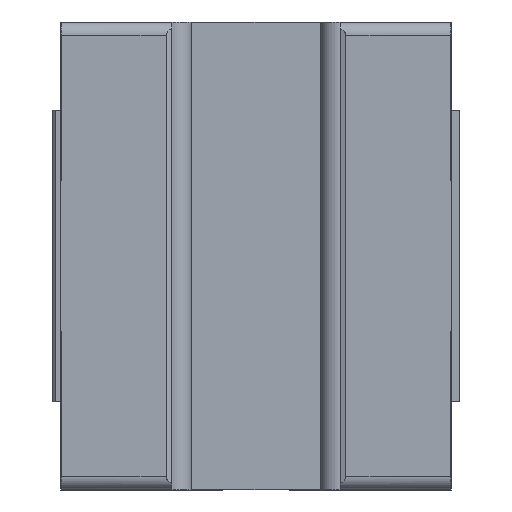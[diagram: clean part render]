
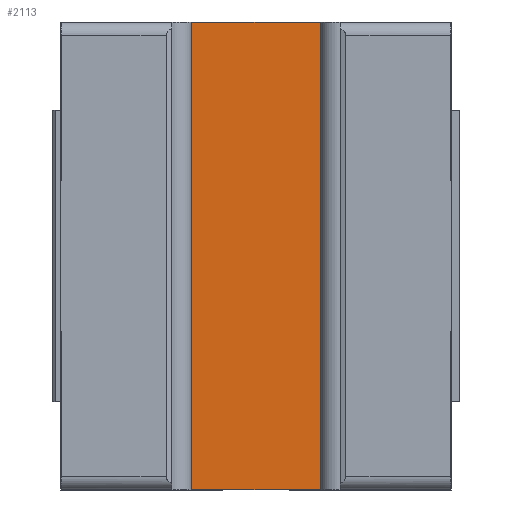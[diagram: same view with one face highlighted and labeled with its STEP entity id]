
A CAD part, front view. The second image highlights one B-rep face of the part: STEP entity #2113.
In plain terms, the highlighted planar face has unit normal (0, -1, 0).
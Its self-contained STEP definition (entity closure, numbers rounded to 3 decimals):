
#919 = VERTEX_POINT ( 'NONE', #7210 ) ;
#1076 = EDGE_CURVE ( 'NONE', #919, #1134, #7653, .T. ) ;
#1134 = VERTEX_POINT ( 'NONE', #8041 ) ;
#2102 = ORIENTED_EDGE ( 'NONE', *, *, #1076, .F. ) ;
#2107 = EDGE_CURVE ( 'NONE', #919, #2303, #4940, .T. ) ;
#2112 = ORIENTED_EDGE ( 'NONE', *, *, #2302, .T. ) ;
#2113 = ADVANCED_FACE ( 'NONE', ( #4832 ), #4855, .F. ) ;
#2117 = EDGE_CURVE ( 'NONE', #1134, #2300, #4806, .T. ) ;
#2120 = EDGE_LOOP ( 'NONE', ( #2204, #2112, #2203, #2102 ) ) ;
#2203 = ORIENTED_EDGE ( 'NONE', *, *, #2117, .F. ) ;
#2204 = ORIENTED_EDGE ( 'NONE', *, *, #2107, .T. ) ;
#2300 = VERTEX_POINT ( 'NONE', #12037 ) ;
#2302 = EDGE_CURVE ( 'NONE', #2303, #2300, #11942, .T. ) ;
#2303 = VERTEX_POINT ( 'NONE', #11999 ) ;
#4801 = DIRECTION ( 'NONE',  ( 0., 0., 1. ) ) ;
#4802 = VECTOR ( 'NONE', #4801, 1000. ) ;
#4803 = CARTESIAN_POINT ( 'NONE',  ( -7.254, 7.798, -9.1 ) ) ;
#4806 = LINE ( 'NONE', #4803, #4802 ) ;
#4824 = DIRECTION ( 'NONE',  ( -1., 0., 0. ) ) ;
#4825 = DIRECTION ( 'NONE',  ( 0., 1., 0. ) ) ;
#4826 = CARTESIAN_POINT ( 'NONE',  ( 7.257, 7.798, -9.1 ) ) ;
#4827 = AXIS2_PLACEMENT_3D ( 'NONE', #4826, #4825, #4824 ) ;
#4832 = FACE_OUTER_BOUND ( 'NONE', #2120, .T. ) ;
#4855 = PLANE ( 'NONE',  #4827 ) ;
#4937 = DIRECTION ( 'NONE',  ( 0., 0., 1. ) ) ;
#4938 = VECTOR ( 'NONE', #4937, 1000. ) ;
#4939 = CARTESIAN_POINT ( 'NONE',  ( 7.257, 7.798, -9.1 ) ) ;
#4940 = LINE ( 'NONE', #4939, #4938 ) ;
#7210 = CARTESIAN_POINT ( 'NONE',  ( 7.257, 7.798, -9.05 ) ) ;
#7618 = DIRECTION ( 'NONE',  ( -1., 0., 0. ) ) ;
#7619 = VECTOR ( 'NONE', #7618, 1000. ) ;
#7620 = CARTESIAN_POINT ( 'NONE',  ( -20.1, 7.798, -9.05 ) ) ;
#7653 = LINE ( 'NONE', #7620, #7619 ) ;
#8041 = CARTESIAN_POINT ( 'NONE',  ( -7.254, 7.798, -9.05 ) ) ;
#11941 = CARTESIAN_POINT ( 'NONE',  ( 7.257, 7.798, 39.05 ) ) ;
#11942 = LINE ( 'NONE', #11941, #12002 ) ;
#11999 = CARTESIAN_POINT ( 'NONE',  ( 7.257, 7.798, 39.05 ) ) ;
#12001 = DIRECTION ( 'NONE',  ( -1., 0., 0. ) ) ;
#12002 = VECTOR ( 'NONE', #12001, 1000. ) ;
#12037 = CARTESIAN_POINT ( 'NONE',  ( -7.254, 7.798, 39.05 ) ) ;
